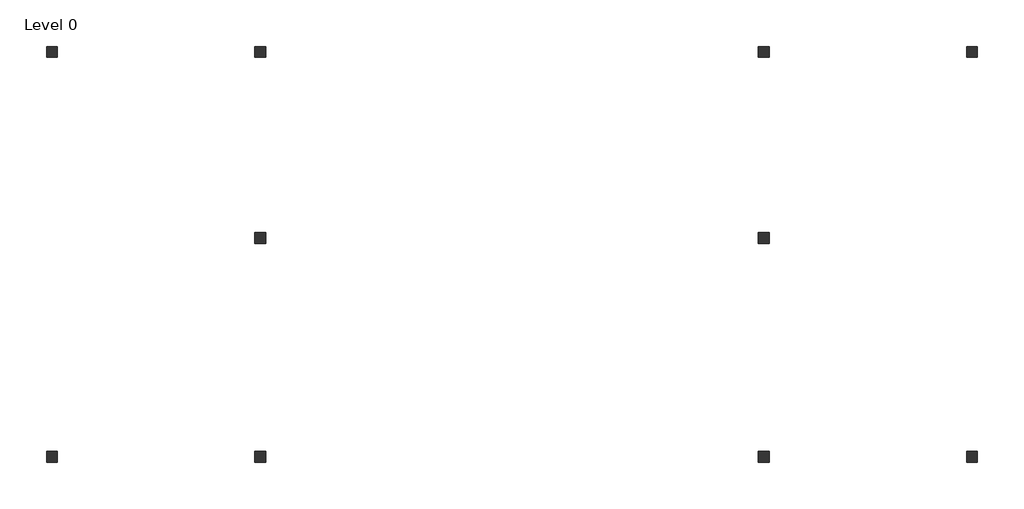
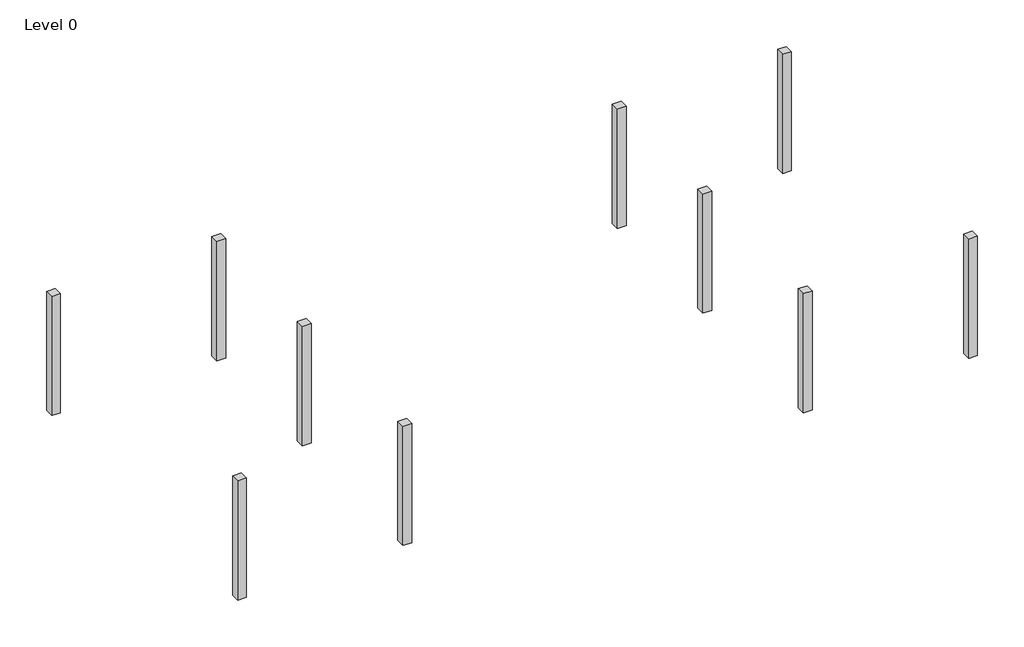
# One storey: 10 columns.
"""IFC4 building model written with IfcOpenShell, lengths in millimetres."""

from ifc_helpers import new_model, si_unit, frame, origin, place, context, project, spatial, polyline, outline, extrude, element, save

model = new_model("IFC4")

# Units and contexts
model_context = context("Model", 3, world=origin())
ifc_project = project(units=[si_unit("LENGTHUNIT", "METRE", prefix="MILLI")], contexts=[model_context])

# Site, building, storey
site = spatial("IfcSite", under=ifc_project)
building = spatial("IfcBuilding", under=site)
storey = spatial("IfcBuildingStorey", under=building, Name="Level 0", Elevation=-4572.0)

# Columns
placement = place(None, origin())
element("IfcColumn", 1, ObjectType="Concrete-Rectangular-Column : 12 x 12", at=placement, inside=storey, context=model_context, shape_type="SweptSolid", body=[
    extrude(outline(polyline([(762.0, 152.4), (1066.8, 152.4), (1066.8, -152.4), (762.0, -152.4), (762.0, 152.4)])), frame((0.0, 0.0, -4572.0), z_axis=(0.0, 0.0, 1.0), x_axis=(1.0, 0.0, 0.0)), (0.0, 0.0, 1.0), 4419.6),
])
element("IfcColumn", 2, ObjectType="Concrete-Rectangular-Column : 12 x 12", at=placement, inside=storey, context=model_context, shape_type="SweptSolid", body=[
    extrude(outline(polyline([(6553.2, 152.4), (6858.0, 152.4), (6858.0, -152.4), (6553.2, -152.4), (6553.2, 152.4)])), frame((0.0, 0.0, -4572.0), z_axis=(0.0, 0.0, 1.0), x_axis=(1.0, 0.0, 0.0)), (0.0, 0.0, 1.0), 4419.6),
])
element("IfcColumn", 3, ObjectType="Concrete-Rectangular-Column : 12 x 12", at=placement, inside=storey, context=model_context, shape_type="SweptSolid", body=[
    extrude(outline(polyline([(6553.2, 6248.4), (6858.0, 6248.4), (6858.0, 5943.6), (6553.2, 5943.6), (6553.2, 6248.4)])), frame((0.0, 0.0, -4572.0), z_axis=(0.0, 0.0, 1.0), x_axis=(1.0, 0.0, 0.0)), (0.0, 0.0, 1.0), 4419.6),
])
element("IfcColumn", 4, ObjectType="Concrete-Rectangular-Column : 12 x 12", at=placement, inside=storey, context=model_context, shape_type="SweptSolid", body=[
    extrude(outline(polyline([(6553.2, 11430.0), (6858.0, 11430.0), (6858.0, 11125.2), (6553.2, 11125.2), (6553.2, 11430.0)])), frame((0.0, 0.0, -4572.0), z_axis=(0.0, 0.0, 1.0), x_axis=(1.0, 0.0, 0.0)), (0.0, 0.0, 1.0), 4419.6),
])
element("IfcColumn", 5, ObjectType="Concrete-Rectangular-Column : 12 x 12", at=placement, inside=storey, context=model_context, shape_type="SweptSolid", body=[
    extrude(outline(polyline([(762.0, 11430.0), (1066.8, 11430.0), (1066.8, 11125.2), (762.0, 11125.2), (762.0, 11430.0)])), frame((0.0, 0.0, -4572.0), z_axis=(0.0, 0.0, 1.0), x_axis=(1.0, 0.0, 0.0)), (0.0, 0.0, 1.0), 4419.6),
])
element("IfcColumn", 6, ObjectType="Concrete-Rectangular-Column : 12 x 12", at=placement, inside=storey, context=model_context, shape_type="SweptSolid", body=[
    extrude(outline(polyline([(26365.1989999, 152.4), (26669.9989999, 152.4), (26669.9989999, -152.4), (26365.1989999, -152.4), (26365.1989999, 152.4)])), frame((0.0, 0.0, -4572.0), z_axis=(0.0, 0.0, 1.0), x_axis=(1.0, 0.0, 0.0)), (0.0, 0.0, 1.0), 4419.6),
])
element("IfcColumn", 7, ObjectType="Concrete-Rectangular-Column : 12 x 12", at=placement, inside=storey, context=model_context, shape_type="SweptSolid", body=[
    extrude(outline(polyline([(20573.9989999, 152.4), (20878.7989999, 152.4), (20878.7989999, -152.4), (20573.9989999, -152.4), (20573.9989999, 152.4)])), frame((0.0, 0.0, -4572.0), z_axis=(0.0, 0.0, 1.0), x_axis=(1.0, 0.0, 0.0)), (0.0, 0.0, 1.0), 4419.6),
])
element("IfcColumn", 8, ObjectType="Concrete-Rectangular-Column : 12 x 12", at=placement, inside=storey, context=model_context, shape_type="SweptSolid", body=[
    extrude(outline(polyline([(20573.9989999, 6248.4), (20878.7989999, 6248.4), (20878.7989999, 5943.6), (20573.9989999, 5943.6), (20573.9989999, 6248.4)])), frame((0.0, 0.0, -4572.0), z_axis=(0.0, 0.0, 1.0), x_axis=(1.0, 0.0, 0.0)), (0.0, 0.0, 1.0), 4419.6),
])
element("IfcColumn", 9, ObjectType="Concrete-Rectangular-Column : 12 x 12", at=placement, inside=storey, context=model_context, shape_type="SweptSolid", body=[
    extrude(outline(polyline([(20573.9989999, 11430.0), (20878.7989999, 11430.0), (20878.7989999, 11125.2), (20573.9989999, 11125.2), (20573.9989999, 11430.0)])), frame((0.0, 0.0, -4572.0), z_axis=(0.0, 0.0, 1.0), x_axis=(1.0, 0.0, 0.0)), (0.0, 0.0, 1.0), 4419.6),
])
element("IfcColumn", 10, ObjectType="Concrete-Rectangular-Column : 12 x 12", at=placement, inside=storey, context=model_context, shape_type="SweptSolid", body=[
    extrude(outline(polyline([(26365.1989999, 11430.0), (26669.9989999, 11430.0), (26669.9989999, 11125.2), (26365.1989999, 11125.2), (26365.1989999, 11430.0)])), frame((0.0, 0.0, -4572.0), z_axis=(0.0, 0.0, 1.0), x_axis=(1.0, 0.0, 0.0)), (0.0, 0.0, 1.0), 4419.6),
])

save(model, "model.ifc")
